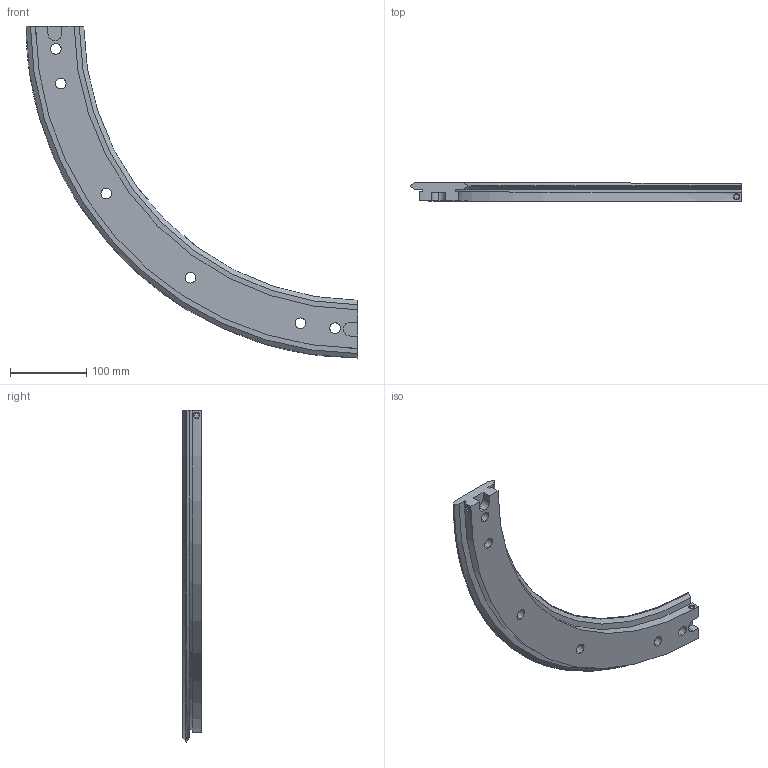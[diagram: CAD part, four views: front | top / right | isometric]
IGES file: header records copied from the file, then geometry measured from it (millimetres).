
Start section: 3D InterOp IGES (v. 2019 1.0.2), Spatial Corp. Copyright (c) 1999-2017.
Global section: file name: TR76 799 R90.igs; native system: Spatial Corp.; preprocessor: 3D InterOp GENERIC/IGES 3.0; author: Noname; organization: Noname; date: 20220628.092408; units: millimetre
Bounding box: 434.8 x 24 x 434.8 mm (x, y, z)
Surface area: 135935.3 mm2 (no closed solid volume)
Topology: 0 solids, 0 shells, 98 faces, 492 edges, 492 vertices
Faces by surface type: extrusion 52, revolution 46
